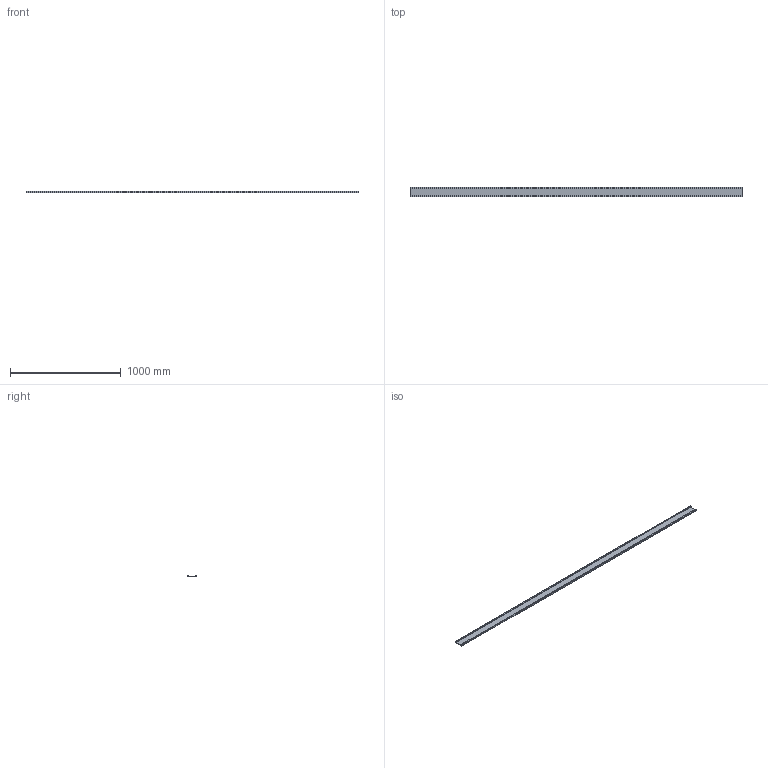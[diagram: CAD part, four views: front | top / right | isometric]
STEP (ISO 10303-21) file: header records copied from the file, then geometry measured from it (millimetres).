
FILE_DESCRIPTION (( 'STEP AP214' ), '1' );
FILE_NAME ('FABER - FD7 7.step', '2017-04-06T07:45:56', ( '' ), ( '' ), 'SwSTEP 2.0', 'SolidWorks 2016', '' );
FILE_SCHEMA (( 'AUTOMOTIVE_DESIGN' ));
Length unit declared in the file: millimetre
Products named in the file (1): FABER - FD7 7
Bounding box: 3000 x 82 x 12 mm (x, y, z)
Volume: 1396500 mm3; surface area: 678931 mm2
Topology: 1 solids, 1 shells, 14 faces, 36 edges, 24 vertices
Faces by surface type: plane 14
Entity records: 454 total; most frequent: CARTESIAN_POINT 75, ORIENTED_EDGE 72, DIRECTION 66, VECTOR 36, LINE 36, EDGE_CURVE 36, VERTEX_POINT 24, AXIS2_PLACEMENT_3D 15
